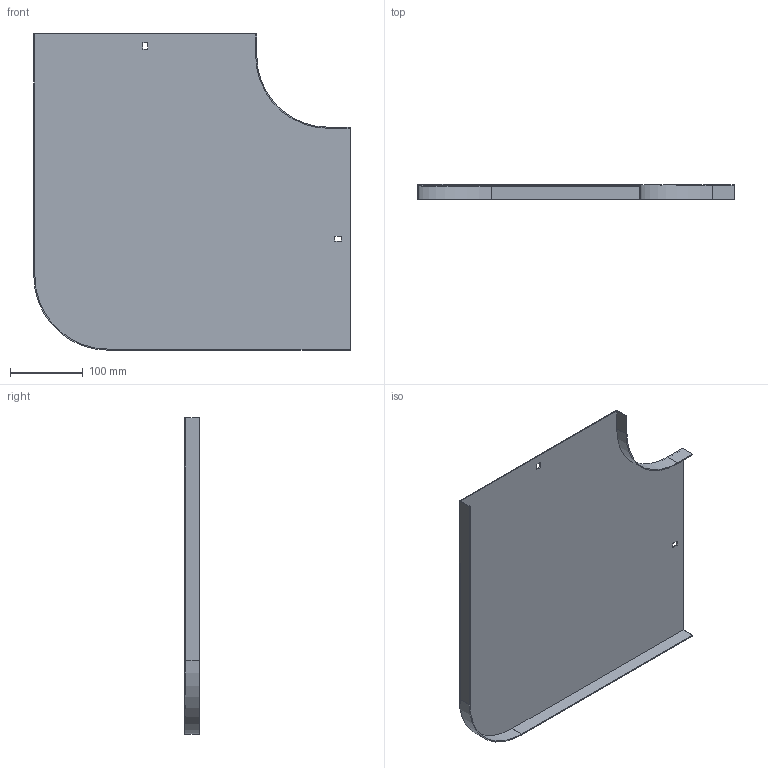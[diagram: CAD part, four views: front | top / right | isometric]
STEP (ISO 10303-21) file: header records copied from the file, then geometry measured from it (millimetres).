
FILE_DESCRIPTION (( 'STEP AP214' ), '1' );
FILE_NAME ('10G1P300.step', '2025-02-21T12:46:33', ( '' ), ( '' ), 'SwSTEP 2.0', 'SolidWorks 2023', '' );
FILE_SCHEMA (( 'AUTOMOTIVE_DESIGN' ));
Length unit declared in the file: millimetre
Products named in the file (1): 10G1P300
Bounding box: 435.5 x 20 x 435.5 mm (x, y, z)
Volume: 288273.3 mm3; surface area: 387052.6 mm2
Topology: 1 solids, 1 shells, 26 faces, 72 edges, 48 vertices
Faces by surface type: plane 22, cylinder 4
Entity records: 855 total; most frequent: CARTESIAN_POINT 147, ORIENTED_EDGE 144, DIRECTION 134, EDGE_CURVE 72, VECTOR 64, LINE 64, VERTEX_POINT 48, AXIS2_PLACEMENT_3D 35
